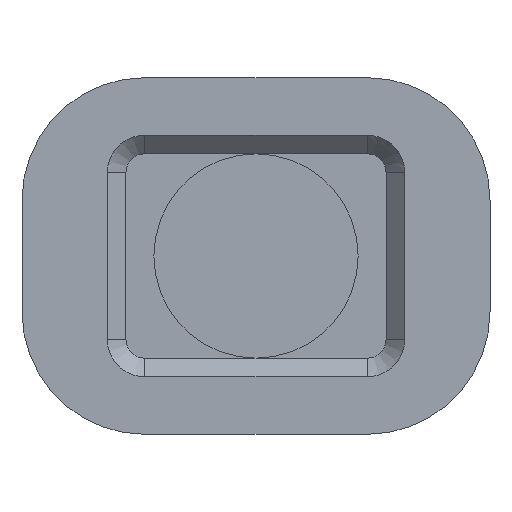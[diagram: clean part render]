
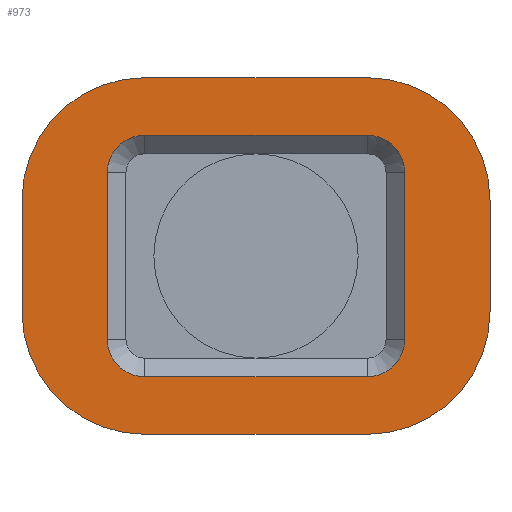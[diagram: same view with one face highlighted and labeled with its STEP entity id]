
A CAD part, front view. The second image highlights one B-rep face of the part: STEP entity #973.
In plain terms, the highlighted planar face has unit normal (0, -1, 0).
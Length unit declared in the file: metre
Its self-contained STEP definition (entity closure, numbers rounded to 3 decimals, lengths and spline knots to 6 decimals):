
#53=CIRCLE('',#1051,0.0033);
#54=CIRCLE('',#1054,0.0033);
#55=CIRCLE('',#1057,0.0033);
#56=CIRCLE('',#1059,0.0033);
#57=CIRCLE('',#1062,0.001);
#58=CIRCLE('',#1063,0.001);
#59=CIRCLE('',#1064,0.001);
#60=CIRCLE('',#1065,0.001);
#149=ORIENTED_EDGE('',*,*,#423,.F.);
#150=ORIENTED_EDGE('',*,*,#424,.F.);
#151=ORIENTED_EDGE('',*,*,#425,.T.);
#152=ORIENTED_EDGE('',*,*,#426,.F.);
#153=ORIENTED_EDGE('',*,*,#427,.T.);
#154=ORIENTED_EDGE('',*,*,#428,.F.);
#155=ORIENTED_EDGE('',*,*,#429,.F.);
#156=ORIENTED_EDGE('',*,*,#430,.F.);
#157=ORIENTED_EDGE('',*,*,#420,.F.);
#158=ORIENTED_EDGE('',*,*,#407,.T.);
#159=ORIENTED_EDGE('',*,*,#411,.F.);
#160=ORIENTED_EDGE('',*,*,#412,.T.);
#161=ORIENTED_EDGE('',*,*,#415,.F.);
#162=ORIENTED_EDGE('',*,*,#417,.F.);
#163=ORIENTED_EDGE('',*,*,#419,.F.);
#164=ORIENTED_EDGE('',*,*,#422,.F.);
#407=EDGE_CURVE('',#552,#553,#632,.T.);
#411=EDGE_CURVE('',#554,#553,#53,.F.);
#412=EDGE_CURVE('',#554,#555,#636,.T.);
#415=EDGE_CURVE('',#556,#555,#54,.F.);
#417=EDGE_CURVE('',#557,#556,#640,.T.);
#419=EDGE_CURVE('',#558,#557,#55,.F.);
#420=EDGE_CURVE('',#552,#559,#56,.F.);
#422=EDGE_CURVE('',#559,#558,#643,.T.);
#423=EDGE_CURVE('',#560,#561,#644,.T.);
#424=EDGE_CURVE('',#562,#560,#57,.T.);
#425=EDGE_CURVE('',#562,#563,#645,.T.);
#426=EDGE_CURVE('',#564,#563,#58,.T.);
#427=EDGE_CURVE('',#564,#565,#646,.T.);
#428=EDGE_CURVE('',#566,#565,#59,.T.);
#429=EDGE_CURVE('',#567,#566,#647,.T.);
#430=EDGE_CURVE('',#561,#567,#60,.T.);
#552=VERTEX_POINT('',#1518);
#553=VERTEX_POINT('',#1519);
#554=VERTEX_POINT('',#1524);
#555=VERTEX_POINT('',#1528);
#556=VERTEX_POINT('',#1532);
#557=VERTEX_POINT('',#1536);
#558=VERTEX_POINT('',#1540);
#559=VERTEX_POINT('',#1544);
#560=VERTEX_POINT('',#1550);
#561=VERTEX_POINT('',#1551);
#562=VERTEX_POINT('',#1553);
#563=VERTEX_POINT('',#1555);
#564=VERTEX_POINT('',#1557);
#565=VERTEX_POINT('',#1559);
#566=VERTEX_POINT('',#1561);
#567=VERTEX_POINT('',#1563);
#632=LINE('',#1517,#724);
#636=LINE('',#1527,#728);
#640=LINE('',#1537,#732);
#643=LINE('',#1547,#735);
#644=LINE('',#1549,#736);
#645=LINE('',#1554,#737);
#646=LINE('',#1558,#738);
#647=LINE('',#1562,#739);
#724=VECTOR('',#1190,1.);
#728=VECTOR('',#1200,1.);
#732=VECTOR('',#1210,1.);
#735=VECTOR('',#1223,1.);
#736=VECTOR('',#1226,1.);
#737=VECTOR('',#1229,1.);
#738=VECTOR('',#1232,1.);
#739=VECTOR('',#1235,1.);
#816=EDGE_LOOP('',(#149,#150,#151,#152,#153,#154,#155,#156));
#817=EDGE_LOOP('',(#157,#158,#159,#160,#161,#162,#163,#164));
#880=FACE_BOUND('',#816,.T.);
#881=FACE_BOUND('',#817,.T.);
#939=PLANE('',#1061);
#973=ADVANCED_FACE('',(#880,#881),#939,.T.);
#1051=AXIS2_PLACEMENT_3D('',#1525,#1196,#1197);
#1054=AXIS2_PLACEMENT_3D('',#1533,#1205,#1206);
#1057=AXIS2_PLACEMENT_3D('',#1541,#1214,#1215);
#1059=AXIS2_PLACEMENT_3D('',#1543,#1218,#1219);
#1061=AXIS2_PLACEMENT_3D('',#1548,#1224,#1225);
#1062=AXIS2_PLACEMENT_3D('',#1552,#1227,#1228);
#1063=AXIS2_PLACEMENT_3D('',#1556,#1230,#1231);
#1064=AXIS2_PLACEMENT_3D('',#1560,#1233,#1234);
#1065=AXIS2_PLACEMENT_3D('',#1564,#1236,#1237);
#1190=DIRECTION('',(-1.,0.,0.));
#1196=DIRECTION('',(0.,-1.,0.));
#1197=DIRECTION('',(0.,0.,-1.));
#1200=DIRECTION('',(0.,0.,-1.));
#1205=DIRECTION('',(0.,-1.,0.));
#1206=DIRECTION('',(0.,0.,-1.));
#1210=DIRECTION('',(-1.,0.,0.));
#1214=DIRECTION('',(0.,-1.,0.));
#1215=DIRECTION('',(0.,0.,-1.));
#1218=DIRECTION('',(0.,-1.,0.));
#1219=DIRECTION('',(0.,0.,-1.));
#1223=DIRECTION('',(0.,0.,-1.));
#1224=DIRECTION('',(0.,-1.,0.));
#1225=DIRECTION('',(1.,0.,0.));
#1226=DIRECTION('',(0.,0.,-1.));
#1227=DIRECTION('',(0.,-1.,0.));
#1228=DIRECTION('',(0.,0.,-1.));
#1229=DIRECTION('',(1.,0.,0.));
#1230=DIRECTION('',(0.,-1.,0.));
#1231=DIRECTION('',(0.,0.,-1.));
#1232=DIRECTION('',(0.,0.,-1.));
#1233=DIRECTION('',(0.,-1.,0.));
#1234=DIRECTION('',(0.,0.,-1.));
#1235=DIRECTION('',(1.,0.,0.));
#1236=DIRECTION('',(0.,-1.,0.));
#1237=DIRECTION('',(0.,0.,-1.));
#1517=CARTESIAN_POINT('',(-0.096875,0.0062,-0.017705));
#1518=CARTESIAN_POINT('',(-0.093875,0.0062,-0.017705));
#1519=CARTESIAN_POINT('',(-0.099875,0.0062,-0.017705));
#1524=CARTESIAN_POINT('',(-0.103175,0.0062,-0.021005));
#1525=CARTESIAN_POINT('',(-0.099875,0.0062,-0.021005));
#1527=CARTESIAN_POINT('',(-0.103175,0.0062,-0.022505));
#1528=CARTESIAN_POINT('',(-0.103175,0.0062,-0.024005));
#1532=CARTESIAN_POINT('',(-0.099875,0.0062,-0.027305));
#1533=CARTESIAN_POINT('',(-0.099875,0.0062,-0.024005));
#1536=CARTESIAN_POINT('',(-0.093875,0.0062,-0.027305));
#1537=CARTESIAN_POINT('',(-0.096875,0.0062,-0.027305));
#1540=CARTESIAN_POINT('',(-0.090575,0.0062,-0.024005));
#1541=CARTESIAN_POINT('',(-0.093875,0.0062,-0.024005));
#1543=CARTESIAN_POINT('',(-0.093875,0.0062,-0.021005));
#1544=CARTESIAN_POINT('',(-0.090575,0.0062,-0.021005));
#1547=CARTESIAN_POINT('',(-0.090575,0.0062,-0.022505));
#1548=CARTESIAN_POINT('',(0.,0.0062,0.));
#1549=CARTESIAN_POINT('',(-0.100875,0.0062,-0.022505));
#1550=CARTESIAN_POINT('',(-0.100875,0.0062,-0.020255));
#1551=CARTESIAN_POINT('',(-0.100875,0.0062,-0.024755));
#1552=CARTESIAN_POINT('',(-0.099875,0.0062,-0.020255));
#1553=CARTESIAN_POINT('',(-0.099875,0.0062,-0.019255));
#1554=CARTESIAN_POINT('',(-0.096875,0.0062,-0.019255));
#1555=CARTESIAN_POINT('',(-0.093875,0.0062,-0.019255));
#1556=CARTESIAN_POINT('',(-0.093875,0.0062,-0.020255));
#1557=CARTESIAN_POINT('',(-0.092875,0.0062,-0.020255));
#1558=CARTESIAN_POINT('',(-0.092875,0.0062,-0.022505));
#1559=CARTESIAN_POINT('',(-0.092875,0.0062,-0.024755));
#1560=CARTESIAN_POINT('',(-0.093875,0.0062,-0.024755));
#1561=CARTESIAN_POINT('',(-0.093875,0.0062,-0.025755));
#1562=CARTESIAN_POINT('',(-0.096875,0.0062,-0.025755));
#1563=CARTESIAN_POINT('',(-0.099875,0.0062,-0.025755));
#1564=CARTESIAN_POINT('',(-0.099875,0.0062,-0.024755));
